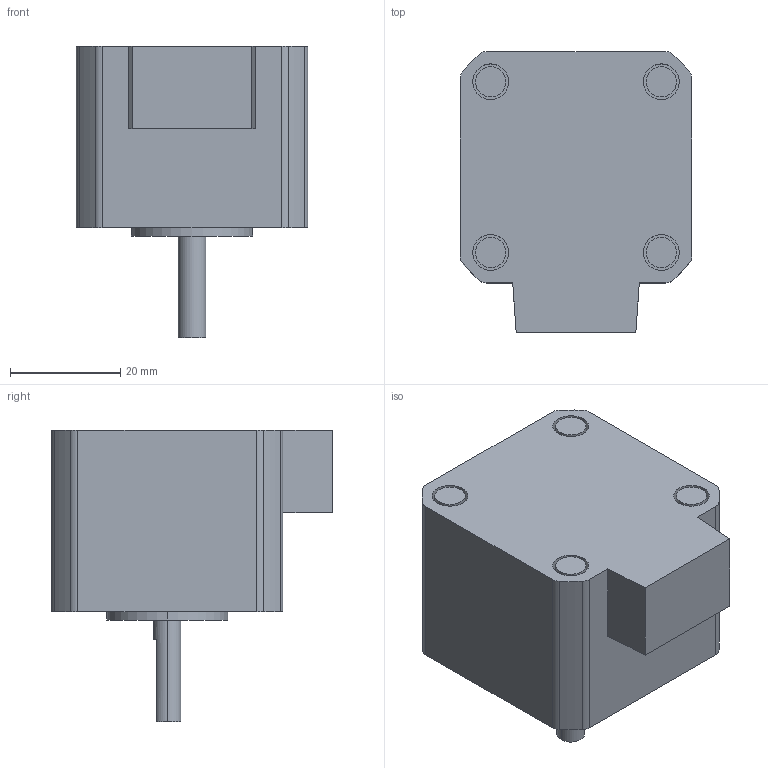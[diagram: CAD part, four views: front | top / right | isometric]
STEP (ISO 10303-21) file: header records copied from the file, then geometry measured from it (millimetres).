
FILE_DESCRIPTION (( 'STEP AP214' ), '1' );
FILE_NAME ('1A.STEP', '2022-12-12T02:53:45', ( '' ), ( '' ), 'SwSTEP 2.0', 'SolidWorks 2020', '' );
FILE_SCHEMA (( 'AUTOMOTIVE_DESIGN' ));
Length unit declared in the file: millimetre
Products named in the file (1): 1A
Bounding box: 42 x 51 x 53 mm (x, y, z)
Volume: 59449.7 mm3; surface area: 11470.8 mm2
Topology: 1 solids, 5 shells, 108 faces, 228 edges, 152 vertices
Faces by surface type: cylinder 62, plane 46
Entity records: 3072 total; most frequent: DIRECTION 572, CARTESIAN_POINT 489, ORIENTED_EDGE 456, AXIS2_PLACEMENT_3D 235, EDGE_CURVE 228, VERTEX_POINT 152, EDGE_LOOP 130, CIRCLE 126
